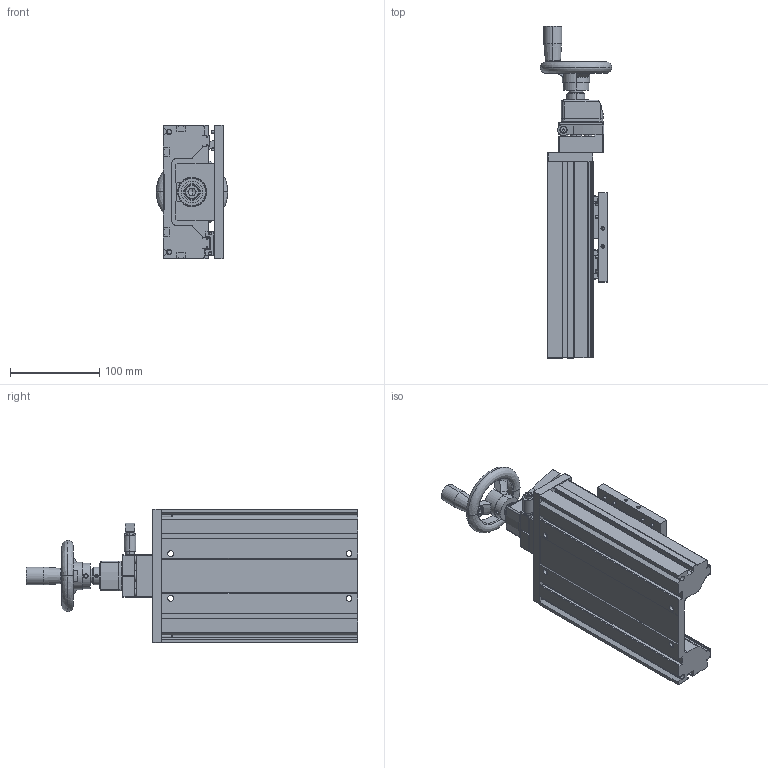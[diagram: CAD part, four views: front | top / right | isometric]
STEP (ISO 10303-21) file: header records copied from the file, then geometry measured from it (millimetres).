
FILE_DESCRIPTION (( 'STEP AP203' ), '1' );
FILE_NAME ('PT-SD220.STEP', '2022-04-10T07:26:42', ( '' ), ( '' ), 'SwSTEP 2.0', 'SolidWorks 2017', '' );
FILE_SCHEMA (( 'CONFIG_CONTROL_DESIGN' ));
Products named in the file (1): PT-SD220
Bounding box: 80 x 372 x 150 mm (x, y, z)
Volume: 1214684.8 mm3; surface area: 351717.9 mm2
Topology: 27 solids, 41 shells, 2293 faces, 5648 edges, 3640 vertices
Faces by surface type: plane 1175, cylinder 762, cone 332, bspline 24
Entity records: 69137 total; most frequent: CARTESIAN_POINT 13332, DIRECTION 11941, ORIENTED_EDGE 11216, EDGE_CURVE 5608, AXIS2_PLACEMENT_3D 4178, VERTEX_POINT 3639, LINE 3585, VECTOR 3585
